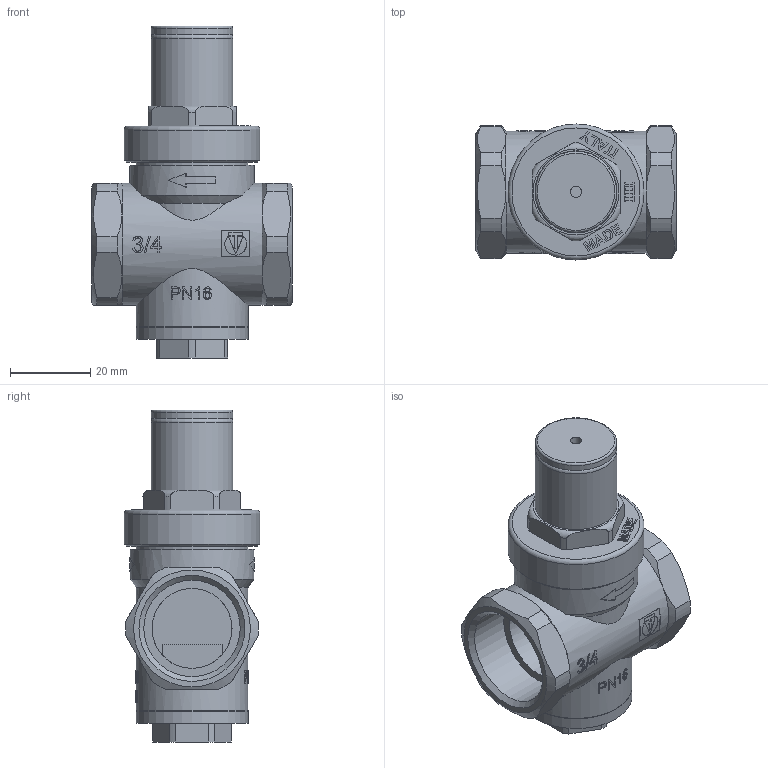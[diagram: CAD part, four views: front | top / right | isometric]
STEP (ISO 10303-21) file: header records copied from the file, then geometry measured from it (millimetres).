
FILE_DESCRIPTION(('TFLEX Exchange Step'),'2;1');
FILE_NAME('Pressure reducing valve 3_4 VT.086.N.05 Valtec.stp', '2023-09-12T11:59:48+03:00',('denis'),('Unknown organisation'),'TFLEX Exchange 2023.0','T-FLEX CAD','Unknown authorisation');
FILE_SCHEMA( ('AUTOMOTIVE_DESIGN { 1 0 10303 214 1 1 1 1 }') );
Length unit declared in the file: millimetre
Products named in the file (1): Nodes
Bounding box: 50 x 34 x 83 mm (x, y, z)
Volume: 54789.8 mm3; surface area: 15711.6 mm2
Topology: 3 solids, 3 shells, 546 faces, 1431 edges, 953 vertices
Faces by surface type: plane 290, bspline 157, cylinder 76, cone 19, torus 4
Full cylindrical faces by diameter (mm): 2.8 x2, 10.4 x1, 20 x1, 20.3 x1, 20.5 x1, 24.1 x2, 27.8 x2, 28 x2, 30.5 x1, 31 x1, 34 x1
Entity records: 21651 total; most frequent: CARTESIAN_POINT 9117, ORIENTED_EDGE 2862, DIRECTION 2068, EDGE_CURVE 1431, VERTEX_POINT 953, VECTOR 830, LINE 830, AXIS2_PLACEMENT_3D 619
